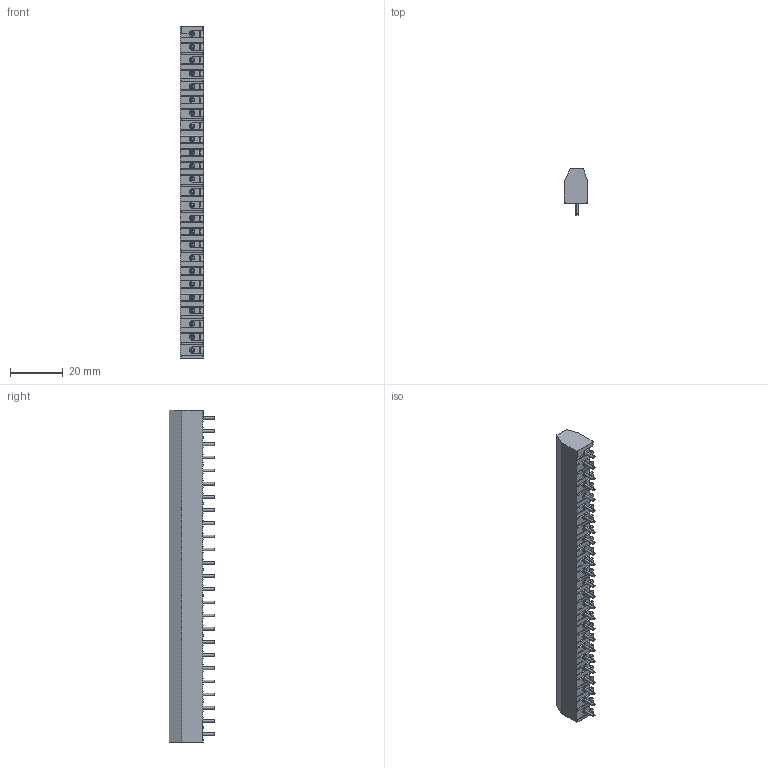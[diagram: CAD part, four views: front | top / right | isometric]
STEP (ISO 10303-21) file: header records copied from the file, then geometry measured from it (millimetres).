
FILE_DESCRIPTION (( 'STEP AP214' ), '1' );
FILE_NAME ('978-DS-25.STEP', '2008-03-02T01:23:24', ( ' ' ), ( '' ), 'SwSTEP 2.0', 'SolidWorks 2007', '' );
FILE_SCHEMA (( 'AUTOMOTIVE_DESIGN' ));
Length unit declared in the file: millimetre
Products named in the file (1): 978-DS-25
Bounding box: 9 x 17.4 x 126 mm (x, y, z)
Volume: 11618.7 mm3; surface area: 8412.8 mm2
Topology: 1 solids, 1 shells, 1882 faces, 5711 edges, 3789 vertices
Faces by surface type: plane 1231, cylinder 501, cone 100, bspline 38, torus 12
Entity records: 68127 total; most frequent: CARTESIAN_POINT 17014, ORIENTED_EDGE 11422, DIRECTION 9994, EDGE_CURVE 5711, VERTEX_POINT 3789, LINE 3588, VECTOR 3588, AXIS2_PLACEMENT_3D 3203
